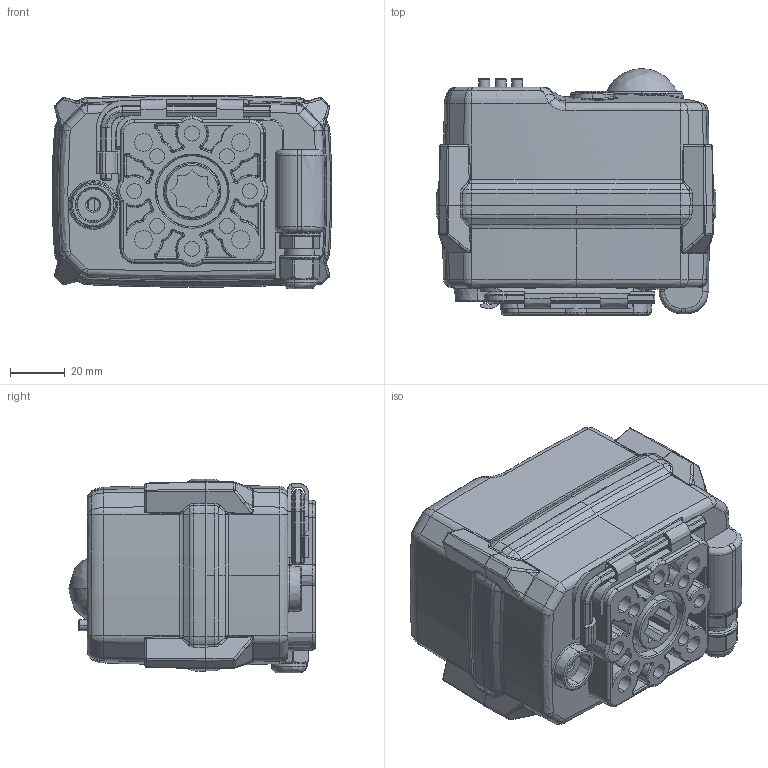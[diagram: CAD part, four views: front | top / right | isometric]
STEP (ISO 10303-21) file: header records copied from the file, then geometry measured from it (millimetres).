
FILE_DESCRIPTION (( 'STEP AP203' ), '1' );
FILE_NAME ('02俋倛芞-20170603.STEP', '2017-06-03T06:46:46', ( '' ), ( '' ), 'SwSTEP 2.0', 'SolidWorks 2015', '' );
FILE_SCHEMA (( 'CONFIG_CONTROL_DESIGN' ));
Length unit declared in the file: inch
Products named in the file (17): 輛盄坶譫; 噩え俋褲囀傍; 珘儒噩え; 忒雄粣蚐猾; 02俋倛芞-20170603; 偌瑩; 怀堤粣 ㄗ囀匐源ㄘ; 手动轴垫圈; 忒雄粣; 下盖（带出模角度）2014-2-24; 忒雄粣粣紫; 上盖（带出模角度）-高盖; 囀硌尨齪2; 忒雄售忒; 囀硌尨齪1; 售忒殤-2-14; 噩え俋褲
Assembly tree (16 placements, depth 2):
  02俋倛芞-20170603
    怀堤粣 ㄗ囀匐源ㄘ
    忒雄粣
    忒雄粣粣紫
    囀硌尨齪2
    囀硌尨齪1
    噩え俋褲
    噩え俋褲囀傍
    忒雄粣蚐猾
    偌瑩
    手动轴垫圈
    下盖（带出模角度）2014-2-24
    上盖（带出模角度）-高盖
    忒雄售忒
    售忒殤-2-14
    輛盄坶譫
    珘儒噩え
Bounding box: 101.88 x 89.75 x 70.57 mm (x, y, z)
Volume: 132878.8 mm3; surface area: 97299.7 mm2
Topology: 16 solids, 16 shells, 2186 faces, 5482 edges, 3375 vertices
Faces by surface type: bspline 699, plane 598, cylinder 573, cone 316
Entity records: 93970 total; most frequent: CARTESIAN_POINT 44203, ORIENTED_EDGE 10874, DIRECTION 9043, EDGE_CURVE 5437, AXIS2_PLACEMENT_3D 3517, VERTEX_POINT 3375, EDGE_LOOP 2328, ADVANCED_FACE 2186
